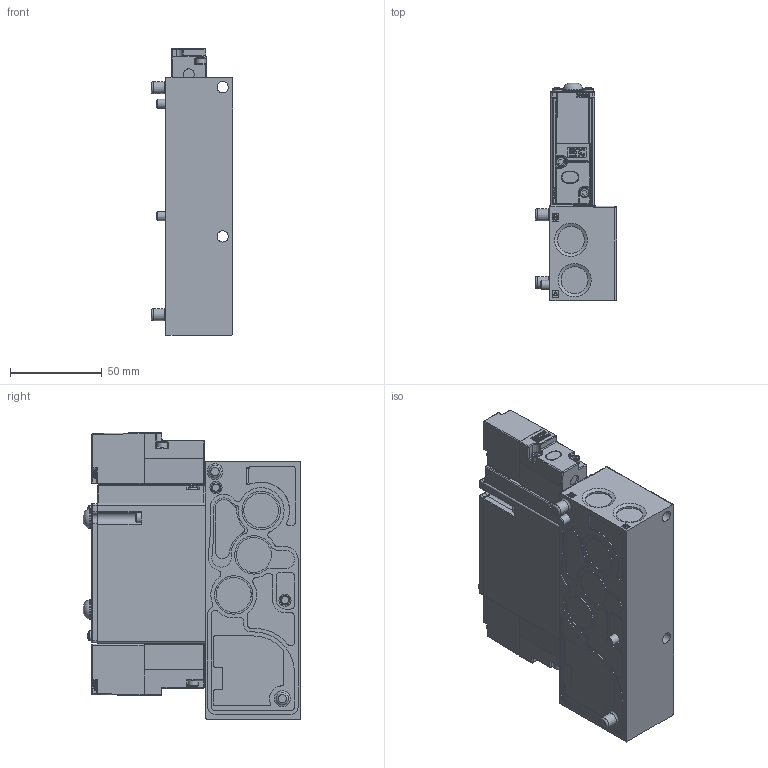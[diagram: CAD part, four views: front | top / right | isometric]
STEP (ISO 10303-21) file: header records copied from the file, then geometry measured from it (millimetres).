
FILE_DESCRIPTION (( 'STEP AP214' ), '1' );
FILE_NAME ('92A-BAA-C3K-DM-DXXP-1DM.STEP', '2019-07-05T15:18:43', ( 'user' ), ( '' ), 'SwSTEP 2.0', 'SolidWorks 2014', '' );
FILE_SCHEMA (( 'AUTOMOTIVE_DESIGN' ));
Length unit declared in the file: millimetre
Products named in the file (6): 92-PILOT-DM3; 92-BODY-BAA; 92-OVERRIDE-1; 92-OPERATOR-DXXP-YDM; 92-BASE-C3J; 92A-BAA-C3K-DM-DXXP-1DM
Assembly tree (8 placements, depth 2):
  92A-BAA-C3K-DM-DXXP-1DM
    92-BASE-C3J
    92-OPERATOR-DXXP-YDM  x2
    92-OVERRIDE-1  x2
    92-BODY-BAA
    92-PILOT-DM3  x2
Bounding box: 44.5 x 118.6 x 156.5 mm (x, y, z)
Volume: 438732 mm3; surface area: 92678.7 mm2
Topology: 37 solids, 37 shells, 2958 faces, 7588 edges, 4920 vertices
Faces by surface type: plane 1661, cylinder 815, cone 275, bspline 94, torus 60, sphere 53
Full cylindrical faces by diameter (mm): 0.01 x4, 0.72 x2, 0.85 x2, 0.95 x4, 1 x2, 2 x4, 2.2 x2, 2.4 x6, 2.5 x2, 2.6 x4, 2.7 x2, 2.79 x4, 3 x10, 3.15 x4, 3.25 x4, 3.3 x4, 3.35 x4, 4.775 x4, 5 x4, 5.1 x2, 5.25 x2, 5.5 x10, 5.6 x2, 6.185 x2, 6.22 x2, 6.6 x2, 6.8 x4, 6.92 x2, 7 x2, 8.5 x2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
Entity records: 94489 total; most frequent: CARTESIAN_POINT 15992, DIRECTION 11049, ORIENTED_EDGE 10972, EDGE_CURVE 5486, AXIS2_PLACEMENT_3D 3768, VERTEX_POINT 3685, LINE 3513, VECTOR 3513
